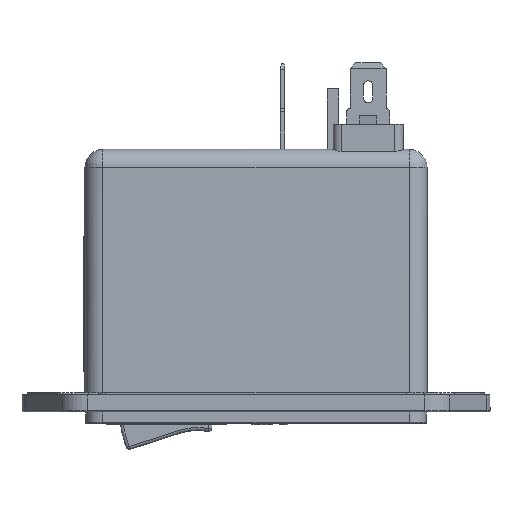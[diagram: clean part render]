
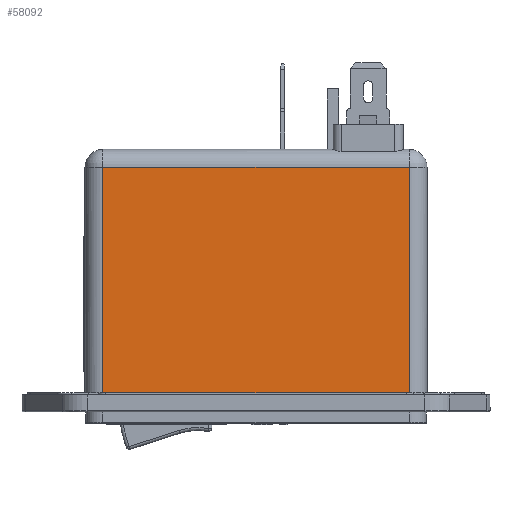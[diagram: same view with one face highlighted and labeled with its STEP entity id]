
A CAD part, left-side view. The second image highlights one B-rep face of the part: STEP entity #58092.
In plain terms, the highlighted planar face has unit normal (-1, 0, 0).
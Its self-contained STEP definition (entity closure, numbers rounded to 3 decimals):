
#55625=CARTESIAN_POINT('',(-14.25,-8.775,64.225));
#55626=VERTEX_POINT('',#55625);
#55634=CARTESIAN_POINT('',(-14.25,-8.775,24.775));
#55635=VERTEX_POINT('',#55634);
#55636=CARTESIAN_POINT('',(-14.25,-8.775,64.225));
#55637=DIRECTION('',(0.0,0.0,-1.0));
#55638=VECTOR('',#55637,39.45);
#55639=LINE('',#55636,#55638);
#55640=EDGE_CURVE('',#55626,#55635,#55639,.T.);
#55944=CARTESIAN_POINT('',(-14.25,44.875,24.775));
#55945=VERTEX_POINT('',#55944);
#55946=CARTESIAN_POINT('',(-14.25,-8.775,24.775));
#55947=DIRECTION('',(0.0,1.0,0.0));
#55948=VECTOR('',#55947,53.65);
#55949=LINE('',#55946,#55948);
#55950=EDGE_CURVE('',#55635,#55945,#55949,.T.);
#57401=CARTESIAN_POINT('',(-14.25,44.875,64.225));
#57402=VERTEX_POINT('',#57401);
#57446=CARTESIAN_POINT('',(-14.25,44.875,24.775));
#57447=DIRECTION('',(0.0,0.0,1.0));
#57448=VECTOR('',#57447,39.45);
#57449=LINE('',#57446,#57448);
#57450=EDGE_CURVE('',#55945,#57402,#57449,.T.);
#57466=CARTESIAN_POINT('',(-14.25,44.875,64.225));
#57467=DIRECTION('',(0.0,-1.0,0.0));
#57468=VECTOR('',#57467,53.65);
#57469=LINE('',#57466,#57468);
#57470=EDGE_CURVE('',#57402,#55626,#57469,.T.);
#58081=CARTESIAN_POINT('',(-14.25,-11.925,24.775));
#58082=DIRECTION('',(-1.0,0.0,0.0));
#58083=DIRECTION('',(0.0,0.0,1.0));
#58084=AXIS2_PLACEMENT_3D('',#58081,#58082,#58083);
#58085=PLANE('',#58084);
#58086=ORIENTED_EDGE('',*,*,#57450,.F.);
#58087=ORIENTED_EDGE('',*,*,#55950,.F.);
#58088=ORIENTED_EDGE('',*,*,#55640,.F.);
#58089=ORIENTED_EDGE('',*,*,#57470,.F.);
#58090=EDGE_LOOP('',(#58086,#58087,#58088,#58089));
#58091=FACE_OUTER_BOUND('',#58090,.T.);
#58092=ADVANCED_FACE('',(#58091),#58085,.T.);
